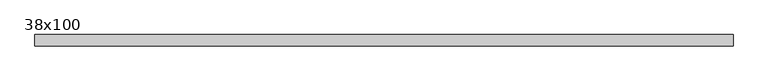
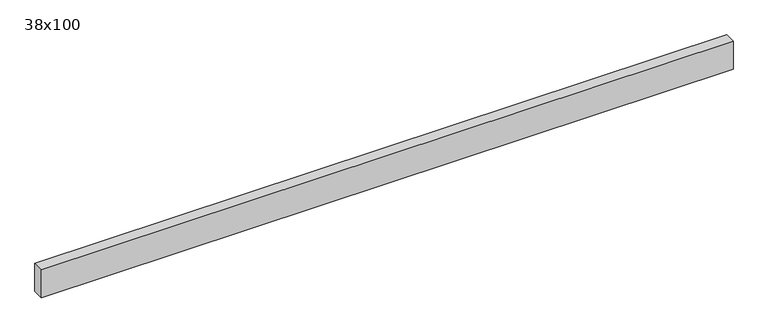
"""IFC4 building model written with IfcOpenShell, lengths in millimetres: beam geometry, Poutre - Bois de construction de dimensions courantes : 38x100."""

from ifc_helpers import new_model, si_unit, frame, origin, place, context, project, spatial, polyline, outline, extrude, source, transform, mapped, element, save


def beam_38x100_c35e2808(model_context):
    return source(origin(), model_context, "Body", "SweptSolid", [
        extrude(outline(polyline([(1097.0, 19.05), (1097.0, -19.05), (-1247.0, -19.05), (-1247.0, 19.05), (1097.0, 19.05)])), frame((0.0, 0.0, -50.0), z_axis=(0.0, 0.0, 1.0), x_axis=(1.0, 0.0, 0.0)), (0.0, 0.0, 1.0), 100.0),
    ])


if __name__ == "__main__":
    model = new_model("IFC4")
    model_context = context("Model", 3, world=origin())
    ifc_project = project(units=[si_unit("LENGTHUNIT", "METRE", prefix="MILLI")], contexts=[model_context])
    site = spatial("IfcSite", under=ifc_project)
    building = spatial("IfcBuilding", under=site)
    placement = place(None, origin())
    beam_38x100_shape = beam_38x100_c35e2808(model_context)
    element("IfcBeam", 1, ObjectType="Poutre - Bois de construction de dimensions courantes : 38x100", at=placement, inside=building, context=model_context, shape_type="MappedRepresentation", body=[
        mapped(beam_38x100_shape, transform((0.0, 0.0, 0.0), x_axis=(1.0, 0.0, 0.0), y_axis=(0.0, 1.0, 0.0), z_axis=(0.0, 0.0, 1.0))),
    ])
    save(model, "model.ifc")
